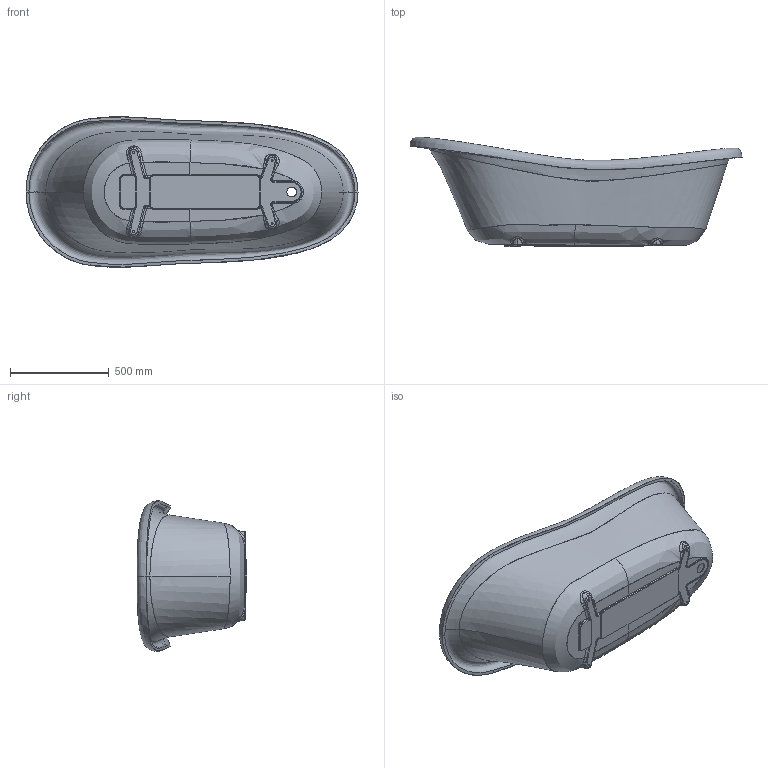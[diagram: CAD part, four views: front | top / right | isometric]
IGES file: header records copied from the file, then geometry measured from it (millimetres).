
Start section: SolidWorks IGES file using analytic representation for surfaces
Global section: file name: O:\BATHTUBS FILES\ROMANCE 1680 F1180023.igs; native system: SolidWorks 2012; preprocessor: SolidWorks 2012; author: zbigniewp; date: 130508.110044; units: millimetre
Bounding box: 1680 x 555.09 x 761.04 mm (x, y, z)
Surface area: 4502575 mm2 (no closed solid volume)
Topology: 0 solids, 0 shells, 209 faces, 3197 edges, 3202 vertices
Faces by surface type: bspline 173, revolution 36
